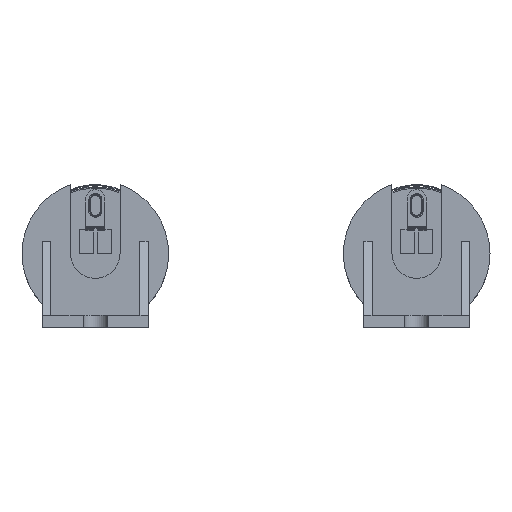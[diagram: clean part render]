
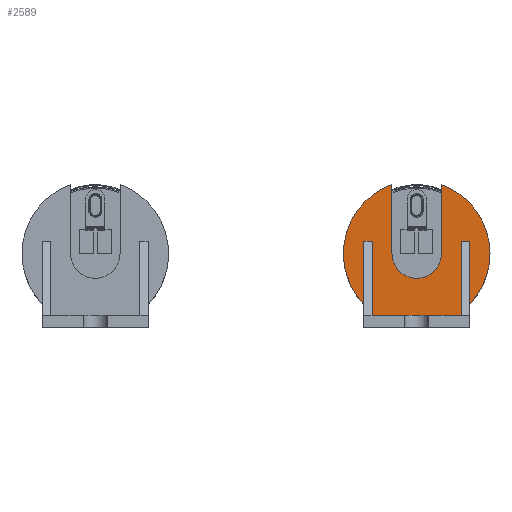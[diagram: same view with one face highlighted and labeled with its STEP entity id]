
A CAD part, left-side view. The second image highlights one B-rep face of the part: STEP entity #2589.
In plain terms, the highlighted free-form (B-spline) face has degree [3, 3] with [4, 4] control points.
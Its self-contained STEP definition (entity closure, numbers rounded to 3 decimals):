
#130=DIRECTION('',(0.,1.,0.));
#131=VECTOR('',#130,22.1);
#132=CARTESIAN_POINT('',(4.4,-11.05,3.));
#133=LINE('',#132,#131);
#146=DIRECTION('',(0.,0.,-1.));
#147=VECTOR('',#146,15.767);
#148=CARTESIAN_POINT('',(4.4,13.15,21.5));
#149=LINE('',#148,#147);
#158=CARTESIAN_POINT('',(4.4,0.,18.388));
#159=DIRECTION('',(-1.,0.,0.));
#160=DIRECTION('',(0.,1.,0.));
#161=AXIS2_PLACEMENT_3D('',#158,#159,#160);
#163=CARTESIAN_POINT('',(4.4,0.,18.388));
#164=DIRECTION('',(1.,0.,0.));
#165=DIRECTION('',(0.,-0.337,0.942));
#166=AXIS2_PLACEMENT_3D('',#163,#164,#165);
#168=CARTESIAN_POINT('',(4.4,0.,18.388));
#169=DIRECTION('',(1.,0.,0.));
#170=DIRECTION('',(0.,-1.,0.));
#171=AXIS2_PLACEMENT_3D('',#168,#169,#170);
#173=CARTESIAN_POINT('',(4.4,0.,18.388));
#174=DIRECTION('',(1.,0.,0.));
#175=DIRECTION('',(0.,0.721,-0.693));
#176=AXIS2_PLACEMENT_3D('',#173,#174,#175);
#178=CARTESIAN_POINT('',(4.4,0.,18.388));
#179=DIRECTION('',(1.,0.,0.));
#180=DIRECTION('',(0.,1.,0.));
#181=AXIS2_PLACEMENT_3D('',#178,#179,#180);
#187=DIRECTION('',(0.,0.,1.));
#188=VECTOR('',#187,17.183);
#189=CARTESIAN_POINT('',(4.4,6.15,18.388));
#190=LINE('',#189,#188);
#225=DIRECTION('',(0.,0.,-1.));
#226=VECTOR('',#225,17.183);
#227=CARTESIAN_POINT('',(4.4,-6.15,35.57));
#228=LINE('',#227,#226);
#608=DIRECTION('',(0.,0.,-1.));
#609=VECTOR('',#608,15.767);
#610=CARTESIAN_POINT('',(4.4,-13.15,21.5));
#611=LINE('',#610,#609);
#640=DIRECTION('',(0.,1.,0.));
#641=VECTOR('',#640,2.1);
#642=CARTESIAN_POINT('',(4.4,-13.15,21.5));
#643=LINE('',#642,#641);
#656=DIRECTION('',(0.,0.,1.));
#657=VECTOR('',#656,18.5);
#658=CARTESIAN_POINT('',(4.4,-11.05,3.));
#659=LINE('',#658,#657);
#1828=DIRECTION('',(0.,0.,-1.));
#1829=VECTOR('',#1828,18.5);
#1830=CARTESIAN_POINT('',(4.4,11.05,21.5));
#1831=LINE('',#1830,#1829);
#1832=DIRECTION('',(0.,1.,0.));
#1833=VECTOR('',#1832,2.1);
#1834=CARTESIAN_POINT('',(4.4,11.05,21.5));
#1835=LINE('',#1834,#1833);
#2021=CARTESIAN_POINT('',(4.4,6.15,18.388));
#2022=CARTESIAN_POINT('',(4.4,6.15,35.57));
#2023=VERTEX_POINT('',#2021);
#2024=VERTEX_POINT('',#2022);
#2025=CARTESIAN_POINT('',(4.4,18.25,18.388));
#2026=VERTEX_POINT('',#2025);
#2027=CARTESIAN_POINT('',(4.4,13.15,5.733));
#2028=VERTEX_POINT('',#2027);
#2029=CARTESIAN_POINT('',(4.4,13.15,21.5));
#2030=VERTEX_POINT('',#2029);
#2031=CARTESIAN_POINT('',(4.4,11.05,21.5));
#2032=VERTEX_POINT('',#2031);
#2033=CARTESIAN_POINT('',(4.4,11.05,3.));
#2034=VERTEX_POINT('',#2033);
#2035=CARTESIAN_POINT('',(4.4,-11.05,3.));
#2036=VERTEX_POINT('',#2035);
#2037=CARTESIAN_POINT('',(4.4,-11.05,21.5));
#2038=VERTEX_POINT('',#2037);
#2039=CARTESIAN_POINT('',(4.4,-13.15,21.5));
#2040=VERTEX_POINT('',#2039);
#2041=CARTESIAN_POINT('',(4.4,-13.15,5.733));
#2042=VERTEX_POINT('',#2041);
#2043=CARTESIAN_POINT('',(4.4,-18.25,18.388));
#2044=VERTEX_POINT('',#2043);
#2045=CARTESIAN_POINT('',(4.4,-6.15,35.57));
#2046=VERTEX_POINT('',#2045);
#2047=CARTESIAN_POINT('',(4.4,-6.15,18.388));
#2048=VERTEX_POINT('',#2047);
#2544=CARTESIAN_POINT('',(4.4,-18.98,2.349));
#2545=CARTESIAN_POINT('',(4.4,-18.98,13.64));
#2546=CARTESIAN_POINT('',(4.4,-18.98,24.931));
#2547=CARTESIAN_POINT('',(4.4,-18.98,36.222));
#2548=CARTESIAN_POINT('',(4.4,-6.327,2.349));
#2549=CARTESIAN_POINT('',(4.4,-6.327,13.64));
#2550=CARTESIAN_POINT('',(4.4,-6.327,24.931));
#2551=CARTESIAN_POINT('',(4.4,-6.327,36.222));
#2552=CARTESIAN_POINT('',(4.4,6.327,2.349));
#2553=CARTESIAN_POINT('',(4.4,6.327,13.64));
#2554=CARTESIAN_POINT('',(4.4,6.327,24.931));
#2555=CARTESIAN_POINT('',(4.4,6.327,36.222));
#2556=CARTESIAN_POINT('',(4.4,18.98,2.349));
#2557=CARTESIAN_POINT('',(4.4,18.98,13.64));
#2558=CARTESIAN_POINT('',(4.4,18.98,24.931));
#2559=CARTESIAN_POINT('',(4.4,18.98,36.222));
#2560=B_SPLINE_SURFACE_WITH_KNOTS('',3,3,((#2544,#2545,#2546,#2547),(#2548,
#2549,#2550,#2551),(#2552,#2553,#2554,#2555),(#2556,#2557,#2558,#2559)),
.UNSPECIFIED.,.F.,.F.,.F.,(4,4),(4,4),(-18.98,18.98),(-16.039,
17.834),.UNSPECIFIED.);
#2562=ORIENTED_EDGE('',*,*,#2561,.F.);
#2564=ORIENTED_EDGE('',*,*,#2563,.T.);
#2566=ORIENTED_EDGE('',*,*,#2565,.F.);
#2568=ORIENTED_EDGE('',*,*,#2567,.T.);
#2570=ORIENTED_EDGE('',*,*,#2569,.T.);
#2572=ORIENTED_EDGE('',*,*,#2571,.F.);
#2574=ORIENTED_EDGE('',*,*,#2573,.T.);
#2576=ORIENTED_EDGE('',*,*,#2575,.F.);
#2577=ORIENTED_EDGE('',*,*,#2477,.T.);
#2579=ORIENTED_EDGE('',*,*,#2578,.F.);
#2581=ORIENTED_EDGE('',*,*,#2580,.T.);
#2582=ORIENTED_EDGE('',*,*,#2532,.T.);
#2584=ORIENTED_EDGE('',*,*,#2583,.T.);
#2586=ORIENTED_EDGE('',*,*,#2585,.T.);
#2587=EDGE_LOOP('',(#2562,#2564,#2566,#2568,#2570,#2572,#2574,#2576,#2577,#2579,
#2581,#2582,#2584,#2586));
#2588=FACE_OUTER_BOUND('',#2587,.F.);
#162=CIRCLE('',#161,6.15);
#167=CIRCLE('',#166,18.25);
#172=CIRCLE('',#171,18.25);
#177=CIRCLE('',#176,18.25);
#182=CIRCLE('',#181,18.25);
#2477=EDGE_CURVE('',#2036,#2034,#133,.T.);
#2532=EDGE_CURVE('',#2030,#2028,#149,.T.);
#2561=EDGE_CURVE('',#2023,#2024,#190,.T.);
#2563=EDGE_CURVE('',#2023,#2048,#162,.T.);
#2565=EDGE_CURVE('',#2046,#2048,#228,.T.);
#2567=EDGE_CURVE('',#2046,#2044,#167,.T.);
#2569=EDGE_CURVE('',#2044,#2042,#172,.T.);
#2571=EDGE_CURVE('',#2040,#2042,#611,.T.);
#2573=EDGE_CURVE('',#2040,#2038,#643,.T.);
#2575=EDGE_CURVE('',#2036,#2038,#659,.T.);
#2578=EDGE_CURVE('',#2032,#2034,#1831,.T.);
#2580=EDGE_CURVE('',#2032,#2030,#1835,.T.);
#2583=EDGE_CURVE('',#2028,#2026,#177,.T.);
#2585=EDGE_CURVE('',#2026,#2024,#182,.T.);
#2589=ADVANCED_FACE('',(#2588),#2560,.F.);
